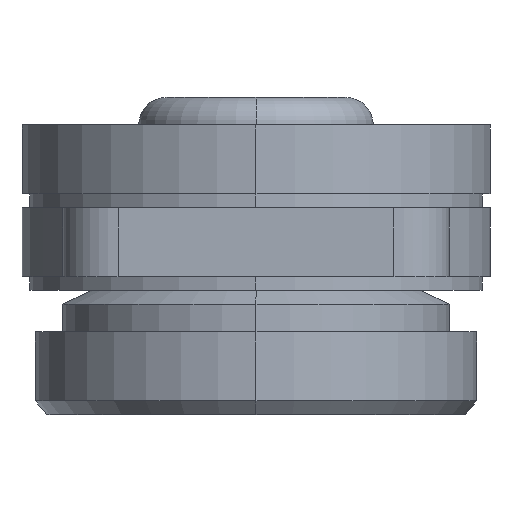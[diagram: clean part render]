
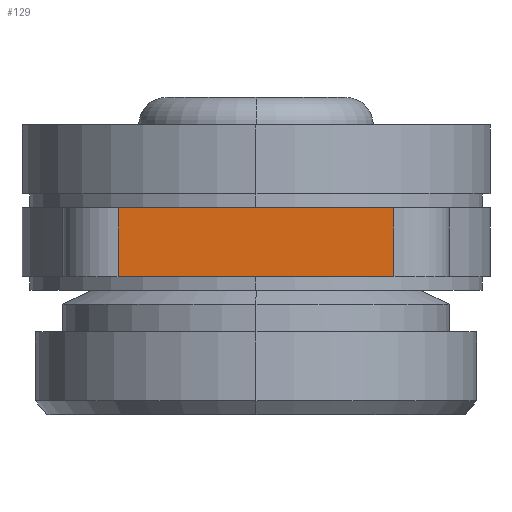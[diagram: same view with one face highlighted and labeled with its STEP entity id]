
A CAD part, left-side view. The second image highlights one B-rep face of the part: STEP entity #129.
In plain terms, the highlighted planar face has unit normal (-1, 0, 0).
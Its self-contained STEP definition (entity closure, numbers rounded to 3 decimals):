
#37 = CARTESIAN_POINT ( 'NONE',  ( -46., 5., -3. ) ) ;
#87 = VERTEX_POINT ( 'NONE', #363 ) ;
#129 = ADVANCED_FACE ( 'NONE', ( #1686 ), #2067, .T. ) ;
#190 = CARTESIAN_POINT ( 'NONE',  ( -46., 5., -3. ) ) ;
#191 = ORIENTED_EDGE ( 'NONE', *, *, #1117, .F. ) ;
#275 = CARTESIAN_POINT ( 'NONE',  ( -46., -5., -3. ) ) ;
#280 = DIRECTION ( 'NONE',  ( 0., -1., 0. ) ) ;
#363 = CARTESIAN_POINT ( 'NONE',  ( -46., 5., -3. ) ) ;
#432 = LINE ( 'NONE', #936, #1265 ) ;
#494 = VERTEX_POINT ( 'NONE', #1745 ) ;
#563 = DIRECTION ( 'NONE',  ( 0., 0., 1. ) ) ;
#601 = LINE ( 'NONE', #928, #1652 ) ;
#631 = VECTOR ( 'NONE', #2005, 1000. ) ;
#699 = DIRECTION ( 'NONE',  ( 0., 0., 1. ) ) ;
#715 = DIRECTION ( 'NONE',  ( -1., 0., 0. ) ) ;
#847 = CARTESIAN_POINT ( 'NONE',  ( -46., 5., -0.5 ) ) ;
#928 = CARTESIAN_POINT ( 'NONE',  ( -46., -5., -3. ) ) ;
#936 = CARTESIAN_POINT ( 'NONE',  ( -46., 5., -3. ) ) ;
#963 = EDGE_CURVE ( 'NONE', #1517, #494, #1817, .T. ) ;
#1117 = EDGE_CURVE ( 'NONE', #87, #1517, #1684, .T. ) ;
#1129 = ORIENTED_EDGE ( 'NONE', *, *, #963, .F. ) ;
#1265 = VECTOR ( 'NONE', #280, 1000. ) ;
#1280 = EDGE_LOOP ( 'NONE', ( #1129, #191, #1639, #1345 ) ) ;
#1292 = CARTESIAN_POINT ( 'NONE',  ( -46., 5., -0.5 ) ) ;
#1335 = VECTOR ( 'NONE', #699, 1000. ) ;
#1345 = ORIENTED_EDGE ( 'NONE', *, *, #1467, .T. ) ;
#1401 = AXIS2_PLACEMENT_3D ( 'NONE', #190, #715, #563 ) ;
#1467 = EDGE_CURVE ( 'NONE', #2130, #494, #601, .T. ) ;
#1517 = VERTEX_POINT ( 'NONE', #1292 ) ;
#1622 = DIRECTION ( 'NONE',  ( 0., 0., 1. ) ) ;
#1639 = ORIENTED_EDGE ( 'NONE', *, *, #1734, .T. ) ;
#1652 = VECTOR ( 'NONE', #1622, 1000. ) ;
#1684 = LINE ( 'NONE', #37, #1335 ) ;
#1686 = FACE_OUTER_BOUND ( 'NONE', #1280, .T. ) ;
#1734 = EDGE_CURVE ( 'NONE', #87, #2130, #432, .T. ) ;
#1745 = CARTESIAN_POINT ( 'NONE',  ( -46., -5., -0.5 ) ) ;
#1817 = LINE ( 'NONE', #847, #631 ) ;
#2005 = DIRECTION ( 'NONE',  ( 0., -1., 0. ) ) ;
#2067 = PLANE ( 'NONE',  #1401 ) ;
#2130 = VERTEX_POINT ( 'NONE', #275 ) ;
